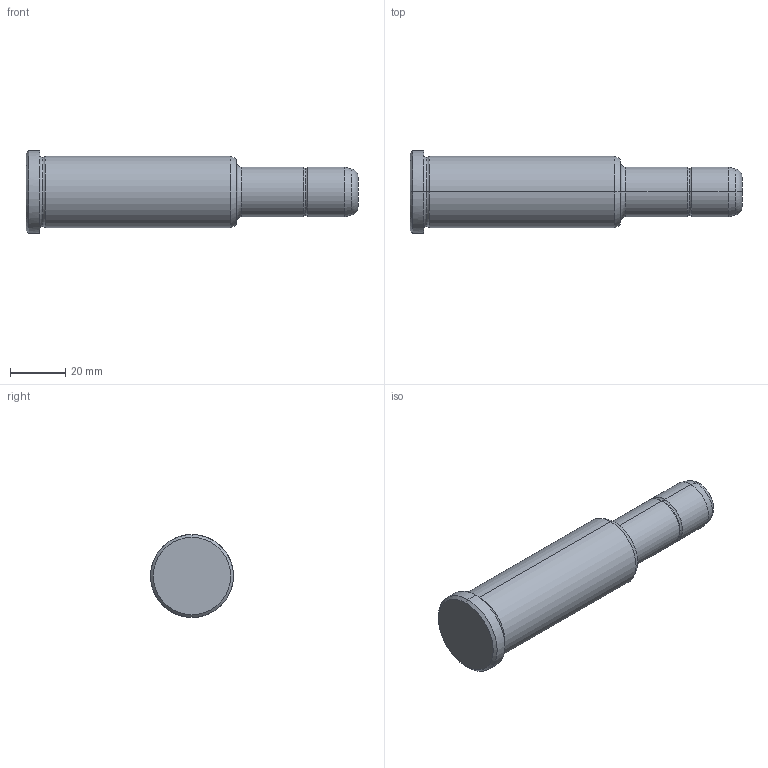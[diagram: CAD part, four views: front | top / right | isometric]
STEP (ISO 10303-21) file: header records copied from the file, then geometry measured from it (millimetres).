
FILE_DESCRIPTION(('CATIA V5 STEP Exchange'),'2;1');
FILE_NAME('C:\Users\Utente\Desktop\IO LAVORO\3D X SITO CF\X SITO\PLASTICA\351\351-18X76X120.stp','2021-08-27T11:19:08+00:00',('none'),('none'),'CATIA Version 5 Release 20 GA (IN-10)','CATIA V5 STEP AP203','none');
FILE_SCHEMA(('CONFIG_CONTROL_DESIGN'));
Length unit declared in the file: millimetre
Products named in the file (1): 351-18X76X120
Bounding box: 120 x 30 x 30 mm (x, y, z)
Volume: 52026.1 mm3; surface area: 9921.1 mm2
Topology: 1 solids, 1 shells, 30 faces, 86 edges, 60 vertices
Faces by surface type: torus 12, cylinder 8, cone 6, plane 4
Entity records: 1112 total; most frequent: CARTESIAN_POINT 289, ORIENTED_EDGE 172, DIRECTION 138, AXIS2_PLACEMENT_3D 95, EDGE_CURVE 86, CIRCLE 64, VERTEX_POINT 60, EDGE_LOOP 32
